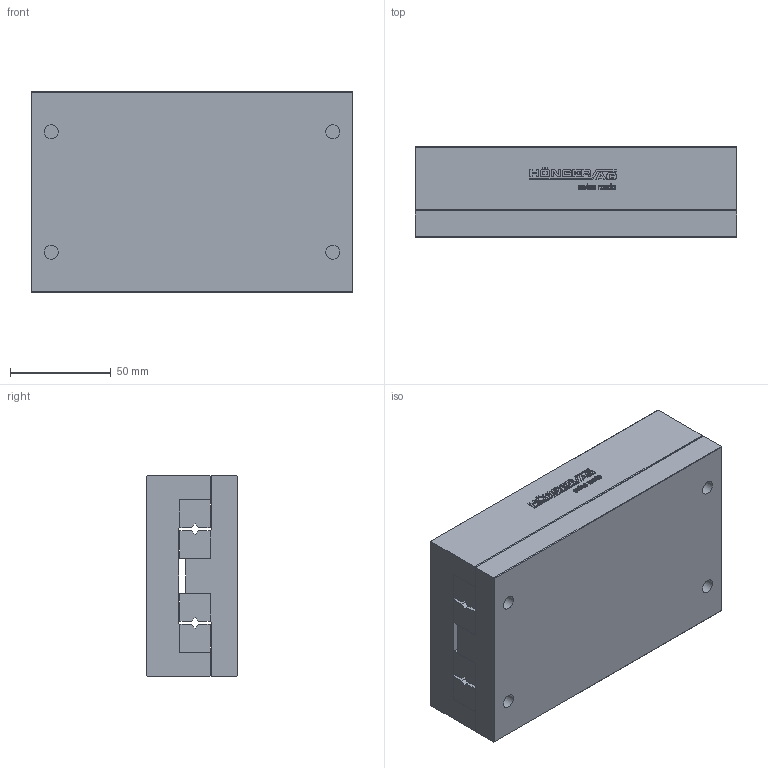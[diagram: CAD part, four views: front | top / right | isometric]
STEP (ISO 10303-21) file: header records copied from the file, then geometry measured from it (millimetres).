
FILE_DESCRIPTION(/* description */ ('STEP AP214'),/* implementation_level */ '2;1');
FILE_NAME(/* name */ 'NK 6-160-B(0)',/* time_stamp */ '2025-04-22T17:50:34+02:00',/* author */ ('License CC BY-ND 4.0'),/* organization */ ('CADENAS'),/* preprocessor_version */ 'ST-DEVELOPER v19.3',/* originating_system */ 'PARTsolutions',/* authorisation */ ' ');
FILE_SCHEMA (('AUTOMOTIVE_DESIGN {1 0 10303 214 3 1 1}'));
Length unit declared in the file: millimetre
Products named in the file (3): NK 6-160-B(0); NK 6-160-B_1; NK 6-160-B_2
Assembly tree (2 placements, depth 2):
  NK 6-160-B(0)
    NK 6-160-B_1
    NK 6-160-B_2
Bounding box: 160 x 45 x 100 mm (x, y, z)
Volume: 688815.2 mm3; surface area: 118089.7 mm2
Topology: 2 solids, 2 shells, 583 faces, 1628 edges, 1076 vertices
Faces by surface type: cylinder 304, plane 271, cone 8
Full cylindrical faces by diameter (mm): 4.917 x4, 7 x4, 11 x4
Entity records: 18869 total; most frequent: DIRECTION 3396, CARTESIAN_POINT 3262, ORIENTED_EDGE 3208, EDGE_CURVE 1604, AXIS2_PLACEMENT_3D 1206, VERTEX_POINT 1072, LINE 984, VECTOR 984
